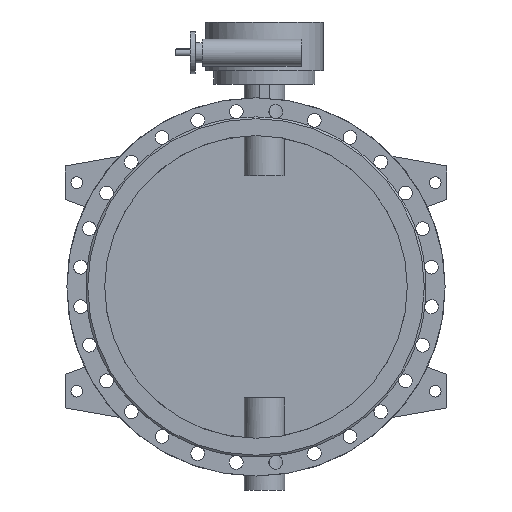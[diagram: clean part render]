
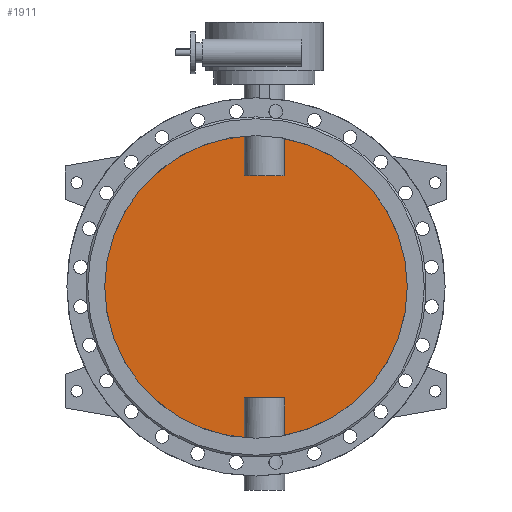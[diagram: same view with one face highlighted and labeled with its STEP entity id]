
A CAD part, front view. The second image highlights one B-rep face of the part: STEP entity #1911.
In plain terms, the highlighted planar face has unit normal (0, -1, 0).
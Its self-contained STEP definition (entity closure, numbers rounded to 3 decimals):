
#1911=ADVANCED_FACE('',(#3891),#3893,.F.);
#3891=FACE_BOUND('',#3892,.T.);
#3892=EDGE_LOOP('',(#5228,#5229,#5230,#5231,#5232,#5233,#5234,#5235));
#3893=PLANE('',#3894);
#3894=AXIS2_PLACEMENT_3D('',#3895,#3896,#3897);
#3895=CARTESIAN_POINT('',(0.,-5.,0.));
#3896=DIRECTION('',(0.,1.,0.));
#3897=DIRECTION('',(1.,0.,0.));
#5228=ORIENTED_EDGE('',*,*,#5892,.T.);
#5229=ORIENTED_EDGE('',*,*,#5902,.T.);
#5230=ORIENTED_EDGE('',*,*,#5903,.T.);
#5231=ORIENTED_EDGE('',*,*,#5904,.T.);
#5232=ORIENTED_EDGE('',*,*,#5894,.T.);
#5233=ORIENTED_EDGE('',*,*,#5905,.T.);
#5234=ORIENTED_EDGE('',*,*,#5906,.T.);
#5235=ORIENTED_EDGE('',*,*,#5907,.T.);
#5892=EDGE_CURVE('',#6991,#6992,#6993,.F.);
#5894=EDGE_CURVE('',#6996,#6994,#6997,.F.);
#5902=EDGE_CURVE('',#6992,#7011,#7012,.T.);
#5903=EDGE_CURVE('',#7011,#7013,#7014,.F.);
#5904=EDGE_CURVE('',#7013,#6996,#7015,.F.);
#5905=EDGE_CURVE('',#6994,#7016,#7017,.F.);
#5906=EDGE_CURVE('',#7016,#7018,#7019,.F.);
#5907=EDGE_CURVE('',#7018,#6991,#7020,.T.);
#6991=VERTEX_POINT('',#13427);
#6992=VERTEX_POINT('',#13428);
#6993=CIRCLE('',#13429,450.);
#6994=VERTEX_POINT('',#13433);
#6996=VERTEX_POINT('',#13523);
#6997=CIRCLE('',#13524,450.);
#7011=VERTEX_POINT('',#13664);
#7012=LINE('',#13665,#13666);
#7013=VERTEX_POINT('',#13668);
#7014=LINE('',#13669,#13670);
#7015=LINE('',#13672,#13673);
#7016=VERTEX_POINT('',#13675);
#7017=LINE('',#13676,#13677);
#7018=VERTEX_POINT('',#13679);
#7019=LINE('',#13680,#13681);
#7020=LINE('',#13683,#13684);
#13427=CARTESIAN_POINT('',(84.791,-5.,-441.939));
#13428=CARTESIAN_POINT('',(84.791,-5.,441.939));
#13429=AXIS2_PLACEMENT_3D('',#13430,#13431,#13432);
#13430=CARTESIAN_POINT('',(0.,-5.,0.));
#13431=DIRECTION('',(0.,1.,0.));
#13432=DIRECTION('',(0.188,0.,0.982));
#13433=CARTESIAN_POINT('',(-34.791,-5.,-448.653));
#13523=CARTESIAN_POINT('',(-34.791,-5.,448.653));
#13524=AXIS2_PLACEMENT_3D('',#13525,#13526,#13527);
#13525=CARTESIAN_POINT('',(0.,-5.,0.));
#13526=DIRECTION('',(0.,1.,0.));
#13527=DIRECTION('',(-0.077,0.,-0.997));
#13664=CARTESIAN_POINT('',(84.791,-5.,330.));
#13665=CARTESIAN_POINT('',(84.791,-5.,441.939));
#13666=VECTOR('',#13667,1.);
#13667=DIRECTION('',(0.,0.,-1.));
#13668=CARTESIAN_POINT('',(-34.791,-5.,330.));
#13669=CARTESIAN_POINT('',(-34.791,-5.,330.));
#13670=VECTOR('',#13671,1.);
#13671=DIRECTION('',(1.,0.,0.));
#13672=CARTESIAN_POINT('',(-34.791,-5.,448.653));
#13673=VECTOR('',#13674,1.);
#13674=DIRECTION('',(0.,0.,-1.));
#13675=CARTESIAN_POINT('',(-34.791,-5.,-330.));
#13676=CARTESIAN_POINT('',(-34.791,-5.,-330.));
#13677=VECTOR('',#13678,1.);
#13678=DIRECTION('',(0.,0.,-1.));
#13679=CARTESIAN_POINT('',(84.791,-5.,-330.));
#13680=CARTESIAN_POINT('',(84.791,-5.,-330.));
#13681=VECTOR('',#13682,1.);
#13682=DIRECTION('',(-1.,0.,0.));
#13683=CARTESIAN_POINT('',(84.791,-5.,-330.));
#13684=VECTOR('',#13685,1.);
#13685=DIRECTION('',(0.,0.,-1.));
